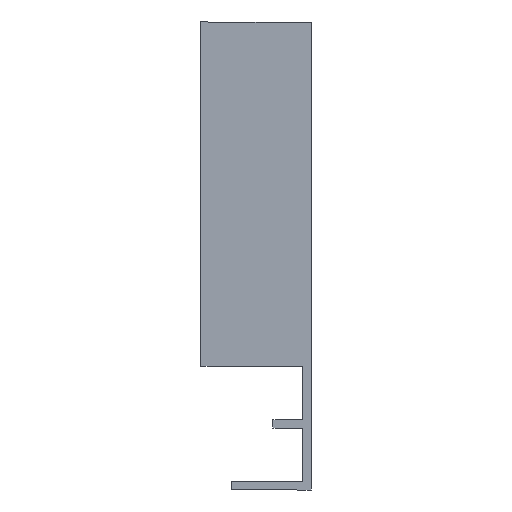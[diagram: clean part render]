
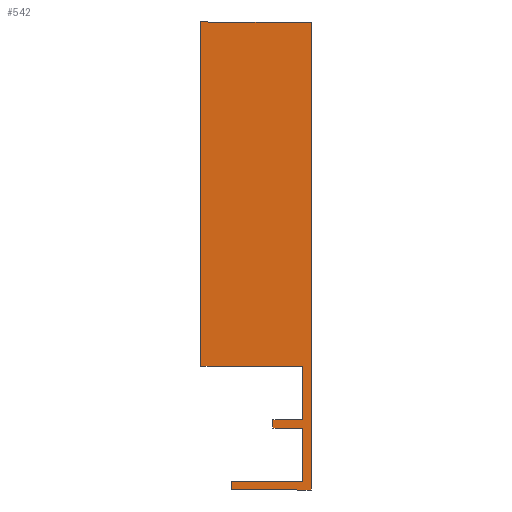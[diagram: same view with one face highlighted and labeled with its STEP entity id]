
A CAD part, left-side view. The second image highlights one B-rep face of the part: STEP entity #542.
In plain terms, the highlighted planar face has unit normal (-1, 0, 0).
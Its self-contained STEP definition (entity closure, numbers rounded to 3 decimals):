
#4 = CARTESIAN_POINT ( 'NONE',  ( -338.5, -5.5, -17.9 ) ) ;
#5 = VERTEX_POINT ( 'NONE', #4 ) ;
#6 = CARTESIAN_POINT ( 'NONE',  ( -338.5, 6., -16.7 ) ) ;
#11 = VERTEX_POINT ( 'NONE', #6 ) ;
#15 = VERTEX_POINT ( 'NONE', #39 ) ;
#18 = VERTEX_POINT ( 'NONE', #42 ) ;
#19 = VERTEX_POINT ( 'NONE', #43 ) ;
#21 = VERTEX_POINT ( 'NONE', #45 ) ;
#23 = VERTEX_POINT ( 'NONE', #47 ) ;
#25 = VERTEX_POINT ( 'NONE', #49 ) ;
#27 = VERTEX_POINT ( 'NONE', #51 ) ;
#29 = VERTEX_POINT ( 'NONE', #53 ) ;
#31 = VERTEX_POINT ( 'NONE', #55 ) ;
#33 = VERTEX_POINT ( 'NONE', #57 ) ;
#39 = CARTESIAN_POINT ( 'NONE',  ( -338.5, -4.3, -16.7 ) ) ;
#42 = CARTESIAN_POINT ( 'NONE',  ( -338.5, 6., -17.9 ) ) ;
#43 = CARTESIAN_POINT ( 'NONE',  ( -338.5, -5.5, 49.7 ) ) ;
#45 = CARTESIAN_POINT ( 'NONE',  ( -338.5, 10.4, 49.7 ) ) ;
#47 = CARTESIAN_POINT ( 'NONE',  ( -338.5, 10.4, 0. ) ) ;
#49 = CARTESIAN_POINT ( 'NONE',  ( -338.5, -4.3, 0. ) ) ;
#51 = CARTESIAN_POINT ( 'NONE',  ( -338.5, -4.3, -7.75 ) ) ;
#53 = CARTESIAN_POINT ( 'NONE',  ( -338.5, 0., -7.75 ) ) ;
#55 = CARTESIAN_POINT ( 'NONE',  ( -338.5, 0., -8.95 ) ) ;
#57 = CARTESIAN_POINT ( 'NONE',  ( -338.5, -4.3, -8.95 ) ) ;
#77 = CARTESIAN_POINT ( 'NONE',  ( -338.5, -4.3, -8.95 ) ) ;
#78 = DIRECTION ( 'NONE',  ( 0., 0., -1. ) ) ;
#82 = CARTESIAN_POINT ( 'NONE',  ( -338.5, -5.5, -17.9 ) ) ;
#86 = CARTESIAN_POINT ( 'NONE',  ( -338.5, -4.3, -16.7 ) ) ;
#87 = DIRECTION ( 'NONE',  ( 0., 0., 1. ) ) ;
#92 = DIRECTION ( 'NONE',  ( 0., 1., 0. ) ) ;
#108 = CARTESIAN_POINT ( 'NONE',  ( -338.5, 0., -8.95 ) ) ;
#113 = CARTESIAN_POINT ( 'NONE',  ( -338.5, -4.3, -7.75 ) ) ;
#114 = DIRECTION ( 'NONE',  ( 0., 1., 0. ) ) ;
#117 = CARTESIAN_POINT ( 'NONE',  ( -338.5, 10.4, 0. ) ) ;
#118 = DIRECTION ( 'NONE',  ( 0., -1., 0. ) ) ;
#121 = CARTESIAN_POINT ( 'NONE',  ( -338.5, 0., -7.75 ) ) ;
#122 = DIRECTION ( 'NONE',  ( 0., 0., -1. ) ) ;
#126 = DIRECTION ( 'NONE',  ( 0., -1., 0. ) ) ;
#131 = CARTESIAN_POINT ( 'NONE',  ( -338.5, -4.3, 0. ) ) ;
#135 = CARTESIAN_POINT ( 'NONE',  ( -338.5, 6., -16.7 ) ) ;
#136 = DIRECTION ( 'NONE',  ( 0., 0., -1. ) ) ;
#139 = CARTESIAN_POINT ( 'NONE',  ( -338.5, 6., -17.9 ) ) ;
#140 = DIRECTION ( 'NONE',  ( 0., -1., 0. ) ) ;
#141 = CARTESIAN_POINT ( 'NONE',  ( -338.5, -5.5, 49.7 ) ) ;
#142 = DIRECTION ( 'NONE',  ( 0., 1., 0. ) ) ;
#147 = DIRECTION ( 'NONE',  ( 0., 0., -1. ) ) ;
#148 = CARTESIAN_POINT ( 'NONE',  ( -338.5, 10.4, 49.7 ) ) ;
#149 = DIRECTION ( 'NONE',  ( 0., 0., -1. ) ) ;
#196 = PLANE ( 'NONE',  #300 ) ;
#199 = CARTESIAN_POINT ( 'NONE',  ( -338.5, 6., -16.7 ) ) ;
#205 = DIRECTION ( 'NONE',  ( -1., 0., 0. ) ) ;
#206 = DIRECTION ( 'NONE',  ( 0., -1., 0. ) ) ;
#246 = EDGE_CURVE ( 'NONE', #33, #15, #311, .T. ) ;
#250 = EDGE_CURVE ( 'NONE', #5, #19, #454, .T. ) ;
#252 = EDGE_CURVE ( 'NONE', #15, #11, #455, .T. ) ;
#262 = EDGE_CURVE ( 'NONE', #27, #29, #461, .T. ) ;
#264 = EDGE_CURVE ( 'NONE', #23, #25, #465, .T. ) ;
#266 = EDGE_CURVE ( 'NONE', #29, #31, #469, .T. ) ;
#268 = EDGE_CURVE ( 'NONE', #31, #33, #472, .T. ) ;
#273 = EDGE_CURVE ( 'NONE', #11, #18, #482, .T. ) ;
#275 = EDGE_CURVE ( 'NONE', #18, #5, #486, .T. ) ;
#276 = EDGE_CURVE ( 'NONE', #19, #21, #488, .T. ) ;
#278 = EDGE_CURVE ( 'NONE', #25, #27, #332, .T. ) ;
#279 = EDGE_CURVE ( 'NONE', #21, #23, #494, .T. ) ;
#300 = AXIS2_PLACEMENT_3D ( 'NONE', #199, #205, #206 ) ;
#311 = LINE ( 'NONE', #77, #456 ) ;
#331 = VECTOR ( 'NONE', #126, 1000. ) ;
#332 = LINE ( 'NONE', #131, #492 ) ;
#343 = ORIENTED_EDGE ( 'NONE', *, *, #252, .T. ) ;
#344 = ORIENTED_EDGE ( 'NONE', *, *, #273, .T. ) ;
#345 = ORIENTED_EDGE ( 'NONE', *, *, #275, .T. ) ;
#346 = ORIENTED_EDGE ( 'NONE', *, *, #250, .T. ) ;
#348 = ORIENTED_EDGE ( 'NONE', *, *, #276, .T. ) ;
#349 = ORIENTED_EDGE ( 'NONE', *, *, #279, .T. ) ;
#350 = ORIENTED_EDGE ( 'NONE', *, *, #264, .T. ) ;
#351 = ORIENTED_EDGE ( 'NONE', *, *, #278, .T. ) ;
#352 = ORIENTED_EDGE ( 'NONE', *, *, #262, .T. ) ;
#353 = ORIENTED_EDGE ( 'NONE', *, *, #266, .T. ) ;
#400 = ORIENTED_EDGE ( 'NONE', *, *, #268, .T. ) ;
#401 = ORIENTED_EDGE ( 'NONE', *, *, #246, .T. ) ;
#423 = EDGE_LOOP ( 'NONE', ( #343, #344, #345, #346, #348, #349, #350, #351, #352, #353, #400, #401 ) ) ;
#446 = VECTOR ( 'NONE', #92, 1000. ) ;
#449 = VECTOR ( 'NONE', #87, 1000. ) ;
#454 = LINE ( 'NONE', #82, #449 ) ;
#455 = LINE ( 'NONE', #86, #446 ) ;
#456 = VECTOR ( 'NONE', #78, 1000. ) ;
#461 = LINE ( 'NONE', #113, #462 ) ;
#462 = VECTOR ( 'NONE', #114, 1000. ) ;
#465 = LINE ( 'NONE', #117, #466 ) ;
#466 = VECTOR ( 'NONE', #118, 1000. ) ;
#469 = LINE ( 'NONE', #121, #470 ) ;
#470 = VECTOR ( 'NONE', #122, 1000. ) ;
#472 = LINE ( 'NONE', #108, #331 ) ;
#482 = LINE ( 'NONE', #135, #483 ) ;
#483 = VECTOR ( 'NONE', #136, 1000. ) ;
#486 = LINE ( 'NONE', #139, #487 ) ;
#487 = VECTOR ( 'NONE', #140, 1000. ) ;
#488 = LINE ( 'NONE', #141, #489 ) ;
#489 = VECTOR ( 'NONE', #142, 1000. ) ;
#492 = VECTOR ( 'NONE', #147, 1000. ) ;
#494 = LINE ( 'NONE', #148, #495 ) ;
#495 = VECTOR ( 'NONE', #149, 1000. ) ;
#514 = FACE_OUTER_BOUND ( 'NONE', #423, .T. ) ;
#542 = ADVANCED_FACE ( 'NONE', ( #514 ), #196, .T. ) ;
